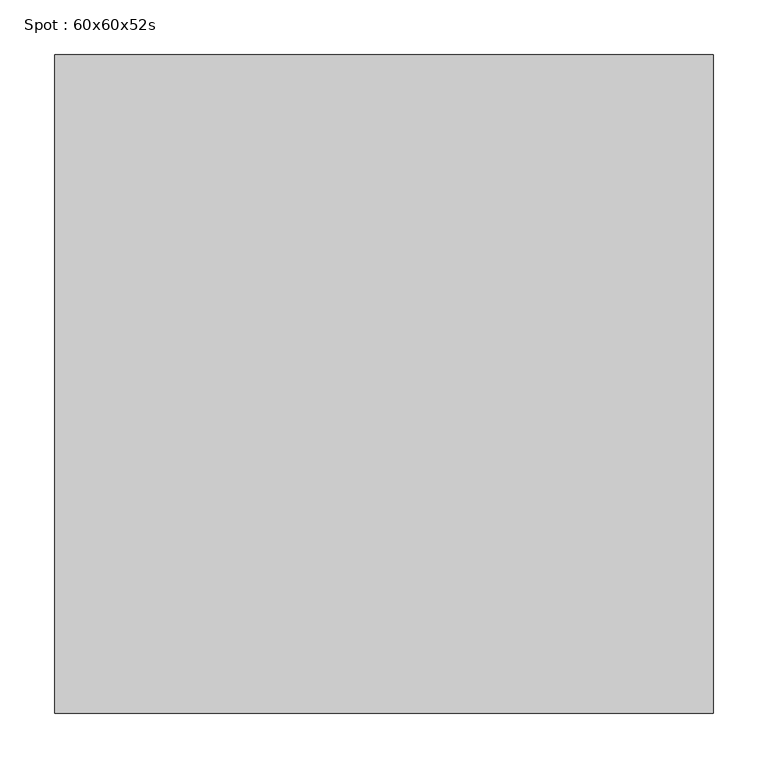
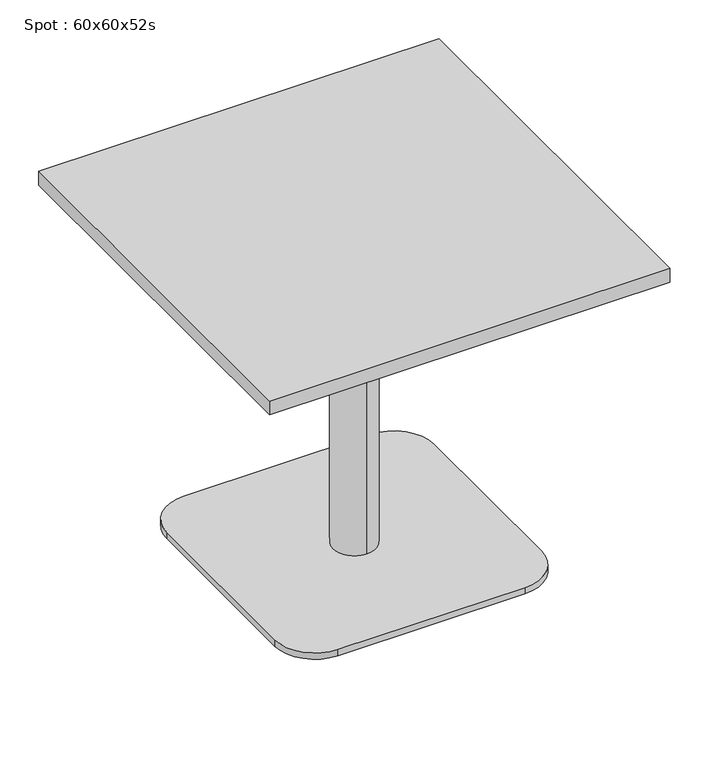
"""IFC4 building model written with IfcOpenShell, lengths in millimetres: furniture geometry, Spot : 60x60x52s."""

from ifc_helpers import new_model, si_unit, point, frame, frame_2d, origin, origin_with_axes, place, context, project, spatial, polyline, circle_curve, trimmed, segment, composite_curve, outline, extrude, source, transform, mapped, element, save
from ifc_brep_helpers import plane_surface, cylinder_surface, revolved_surface, advanced_brep


def spot_60x60x52s_42c6ff7e(model_context):
    return source(origin(), model_context, "Body", "SolidModel", [
        extrude(outline(polyline([(300.0, 300.0), (300.0, -300.0), (-300.0, -300.0), (-300.0, 300.0), (300.0, 300.0)])), frame((0.0, 0.0, 498.0), z_axis=(0.0, 0.0, 1.0), x_axis=(1.0, 0.0, 0.0)), (0.0, 0.0, 1.0), 22.0),
        extrude(outline(composite_curve([segment(trimmed(circle_curve(frame_2d((140.0, 140.0)), 60.0), [point((140.0, 200.0))], [point((200.0, 140.0))], False, "CARTESIAN"), True, "CONTINUOUS"), segment(polyline([(200.0, 140.0), (200.0, -140.0)]), True, "CONTINUOUS"), segment(trimmed(circle_curve(frame_2d((140.0, -140.0)), 60.0), [point((200.0, -140.0))], [point((140.0, -200.0))], False, "CARTESIAN"), True, "CONTINUOUS"), segment(polyline([(140.0, -200.0), (-140.0, -200.0)]), True, "CONTINUOUS"), segment(trimmed(circle_curve(frame_2d((-140.0, -140.0)), 60.0), [point((-140.0, -200.0))], [point((-200.0, -140.0))], False, "CARTESIAN"), True, "CONTINUOUS"), segment(polyline([(-200.0, -140.0), (-200.0, 140.0)]), True, "CONTINUOUS"), segment(trimmed(circle_curve(frame_2d((-140.0, 140.0)), 60.0), [point((-200.0, 140.0))], [point((-140.0, 200.0))], False, "CARTESIAN"), True, "CONTINUOUS"), segment(polyline([(-140.0, 200.0), (140.0, 200.0)]), True, "CONTINUOUS")], self_intersect=False)), origin_with_axes(), (0.0, 0.0, 1.0), 10.0),
        advanced_brep(
        [(0.0, 32.0, 10.0), (0.0, -32.0, 10.0), (0.0, -32.0, 467.406916), (0.0, 32.0, 467.406916), (0.0, 0.0, 10.0), (0.0, 150.0, 498.0), (0.0, -150.0, 498.0), (0.0, 0.0, 498.0), (0.0, 150.0, 486.7213673), (0.0, -150.0, 486.7213673)],
        [
            (0, 1, circle_curve(frame((0.0, 0.0, 10.0), z_axis=(0.0, 0.0, 1.0), x_axis=(0.0, -1.0, 0.0)), 32.0)),
            (1, 2),
            (2, 3, circle_curve(frame((0.0, 0.0, 467.406916), z_axis=(0.0, 0.0, -1.0), x_axis=(0.0, -1.0, 0.0)), 32.0)),
            (3, 0),
            (1, 0, circle_curve(frame((0.0, 0.0, 10.0), z_axis=(0.0, 0.0, 1.0), x_axis=(0.0, -1.0, 0.0)), 32.0)),
            (3, 2, circle_curve(frame((0.0, 0.0, 467.406916), z_axis=(0.0, 0.0, -1.0), x_axis=(0.0, -1.0, 0.0)), 32.0)),
            (4, 1),
            (0, 4),
            (5, 6, circle_curve(frame((0.0, 0.0, 498.0), z_axis=(0.0, 0.0, 1.0), x_axis=(0.0, -1.0, 0.0)), 150.0)),
            (6, 7),
            (7, 5),
            (6, 5, circle_curve(frame((0.0, 0.0, 498.0), z_axis=(0.0, 0.0, 1.0), x_axis=(0.0, -1.0, 0.0)), 150.0)),
            (8, 9, circle_curve(frame((0.0, 0.0, 486.7213673), z_axis=(0.0, 0.0, 1.0), x_axis=(0.0, -1.0, 0.0)), 150.0)),
            (9, 6),
            (5, 8),
            (9, 8, circle_curve(frame((0.0, 0.0, 486.7213673), z_axis=(0.0, 0.0, 1.0), x_axis=(0.0, -1.0, 0.0)), 150.0)),
            (2, 9),
            (8, 3),
        ],
        [
            cylinder_surface(frame((0.0, 0.0, 860.0), z_axis=(0.0, 0.0, -1.0), x_axis=(0.0, -1.0, 0.0)), 32.0),
            plane_surface(frame((0.0, 0.0, 10.0), z_axis=(0.0, 0.0, -1.0), x_axis=(0.0, -1.0, 0.0))),
            plane_surface(frame((0.0, 0.0, 498.0), z_axis=(0.0, 0.0, 1.0), x_axis=(0.0, -1.0, 0.0))),
            cylinder_surface(frame((0.0, 0.0, 860.0), z_axis=(0.0, 0.0, -1.0), x_axis=(0.0, -1.0, 0.0)), 150.0),
            revolved_surface(polyline([(0.0, -150.0, 486.7213673), (0.0, -32.0, 467.406916)]), (0.0, 0.0, 860.0), (0.0, 0.0, -1.0)),
        ],
        [
            (0, [[1, 2, 3, 4]]),
            (0, [[5, -4, 6, -2]]),
            (1, [[7, -1, 8]]),
            (1, [[-8, -5, -7]]),
            (2, [[9, 10, 11]]),
            (2, [[12, -11, -10]]),
            (3, [[13, 14, -9, 15]]),
            (3, [[16, -15, -12, -14]]),
            (4, [[-3, 17, -13, 18]]),
            (4, [[-6, -18, -16, -17]]),
        ],
    ),
        extrude(outline(polyline([(0.0, 0.0), (-20.0, 0.0), (-20.0, 20.0), (0.0, 20.0), (0.0, 0.0)])), origin_with_axes(), (0.0, 0.0, 1.0), 10.0),
    ])


if __name__ == "__main__":
    model = new_model("IFC4")
    model_context = context("Model", 3, world=origin())
    ifc_project = project(units=[si_unit("LENGTHUNIT", "METRE", prefix="MILLI")], contexts=[model_context])
    site = spatial("IfcSite", under=ifc_project)
    building = spatial("IfcBuilding", under=site)
    placement = place(None, origin())
    spot_60x60x52s_shape = spot_60x60x52s_42c6ff7e(model_context)
    element("IfcFurniture", 1, ObjectType="Spot : 60x60x52s", at=placement, inside=building, context=model_context, shape_type="MappedRepresentation", body=[
        mapped(spot_60x60x52s_shape, transform((0.0, 0.0, 0.0), x_axis=(1.0, 0.0, 0.0), y_axis=(0.0, 1.0, 0.0), z_axis=(0.0, 0.0, 1.0))),
    ])
    save(model, "model.ifc")
